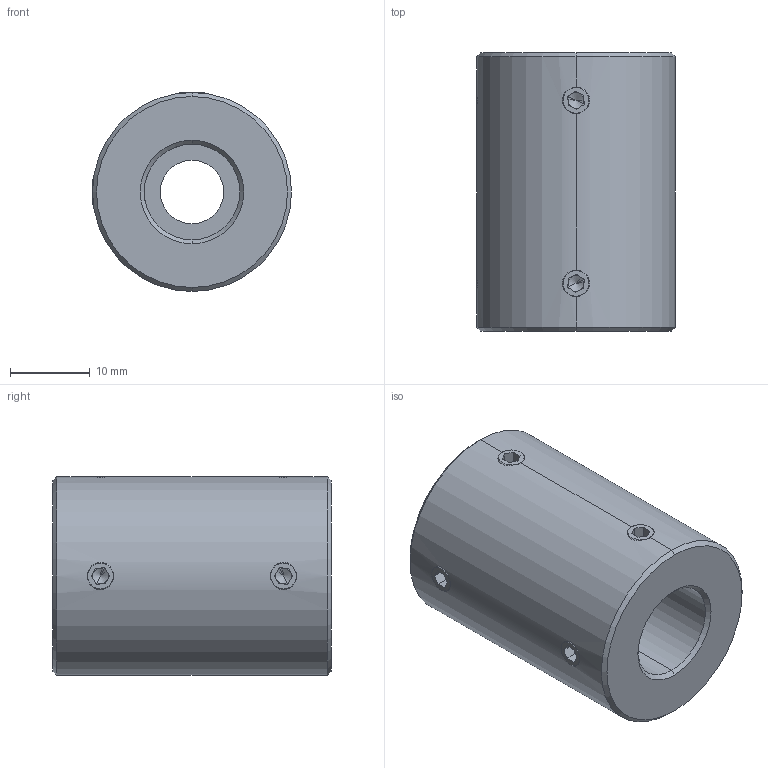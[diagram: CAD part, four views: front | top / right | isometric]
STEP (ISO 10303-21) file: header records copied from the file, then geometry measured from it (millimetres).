
FILE_DESCRIPTION (( 'STEP AP214' ), '1' );
FILE_NAME ('LL-D-D25L35-8-12½¨Ä£.STEP', '2022-07-23T00:41:44', ( '' ), ( '' ), 'SwSTEP 2.0', 'SolidWorks 2022', '' );
FILE_SCHEMA (( 'AUTOMOTIVE_DESIGN' ));
Length unit declared in the file: millimetre
Products named in the file (1): LL-D-D25L35-8-12膘耀
Bounding box: 25 x 35 x 25 mm (x, y, z)
Volume: 14146.7 mm3; surface area: 4883.3 mm2
Topology: 1 solids, 1 shells, 113 faces, 286 edges, 176 vertices
Faces by surface type: plane 59, cone 32, cylinder 22
Entity records: 3722 total; most frequent: CARTESIAN_POINT 1012, DIRECTION 558, ORIENTED_EDGE 556, EDGE_CURVE 278, AXIS2_PLACEMENT_3D 206, VERTEX_POINT 176, VECTOR 146, LINE 146
